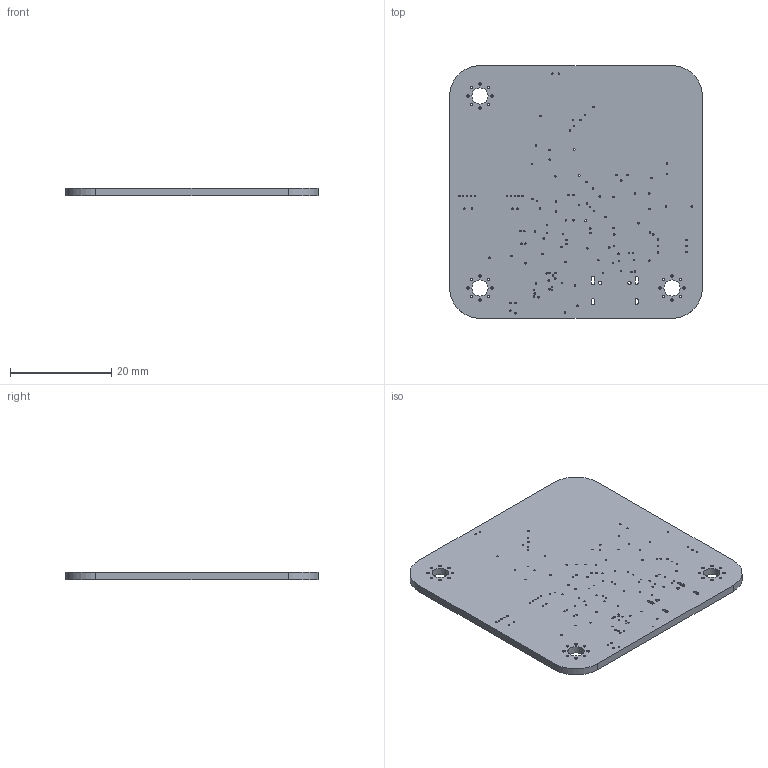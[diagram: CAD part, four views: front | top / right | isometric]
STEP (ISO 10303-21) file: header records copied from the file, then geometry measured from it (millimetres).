
FILE_DESCRIPTION(/* description */ ('STEP AP242 Edition 2','CAx-IF Rec.Pracs.---Representation and Presentation of Product Manufacturing Information (PMI)---4.0---2014-10-13','CAx-IF Rec.Pracs.---3D Tessellated Geometry---0.4---2014-09-14','2;1','CAx-IF Rec.Pracs.---User Defined Attributes---1.5---2016-08-15'),/* implementation_level */ '2;1');
FILE_NAME(/* name */ 'v2_assembly - opentag_PCB',/* time_stamp */ '2026-05-19T16:26:06Z',/* author */ (''),/* organization */ (''),/* preprocessor_version */ 'ST-DEVELOPER v20',/* originating_system */ 'ONSHAPE BY PTC INC, 1.215',/* authorisation */ ' ');
FILE_SCHEMA (('AP242_MANAGED_MODEL_BASED_3D_ENGINEERING_MIM_LF { 1 0 10303 442 3 1 4 }'));
Length unit declared in the file: metre
Products named in the file (1): opentag_PCB
Bounding box: 50 x 50 x 1.51 mm (x, y, z)
Volume: 3665.4 mm3; surface area: 5452.4 mm2
Topology: 1 solids, 1 shells, 182 faces, 540 edges, 360 vertices
Faces by surface type: cylinder 168, plane 14
Full cylindrical faces by diameter (mm): 0.3 x127, 0.5 x24, 0.65 x2, 3.2 x3
Entity records: 6182 total; most frequent: DIRECTION 1086, CARTESIAN_POINT 927, ORIENTED_EDGE 768, EDGE_LOOP 658, FACE_BOUND 658, AXIS2_PLACEMENT_3D 519, EDGE_CURVE 384, VERTEX_POINT 360
